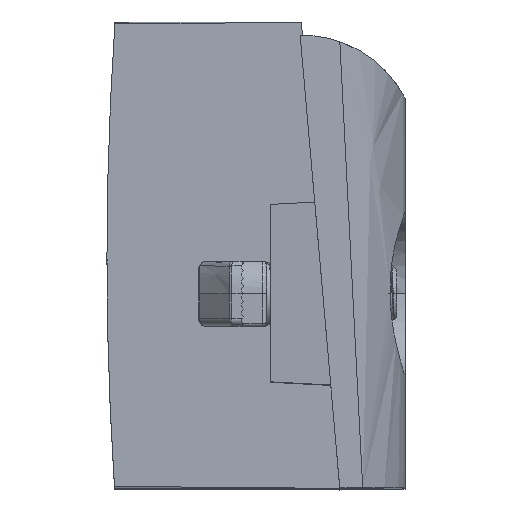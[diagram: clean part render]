
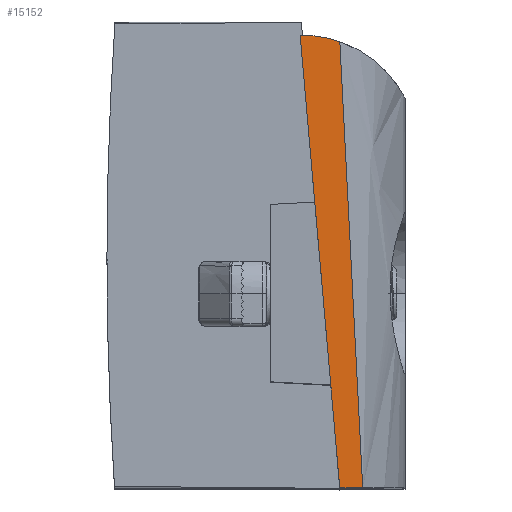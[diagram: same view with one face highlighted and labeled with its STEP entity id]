
A CAD part, top view. The second image highlights one B-rep face of the part: STEP entity #15152.
In plain terms, the highlighted planar face has unit normal (0.017, 0.002, 1) as drawn and (1, 0.002, -0.017) by its records, which use the part's own axes.
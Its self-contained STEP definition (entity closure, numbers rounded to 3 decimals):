
#452 = VERTEX_POINT ( 'NONE', #6340 ) ;
#619 =( BOUNDED_CURVE ( )  B_SPLINE_CURVE ( 3, ( #9451, #12213, #1966, #3161 ),
 .UNSPECIFIED., .F., .F. ) 
 B_SPLINE_CURVE_WITH_KNOTS ( ( 4, 4 ),
 ( 1.154, 1.484 ),
 .UNSPECIFIED. ) 
 CURVE ( )  GEOMETRIC_REPRESENTATION_ITEM ( )  RATIONAL_B_SPLINE_CURVE ( ( 1., 0.991, 0.991, 1. ) ) 
 REPRESENTATION_ITEM ( '' )  );
#893 = LINE ( 'NONE', #7488, #13814 ) ;
#1140 = DIRECTION ( 'NONE',  ( 0., -0.996, -0.087 ) ) ;
#1881 = EDGE_CURVE ( 'NONE', #452, #10415, #11012, .T. ) ;
#1966 = CARTESIAN_POINT ( 'NONE',  ( 77.466, 58.9, -26.805 ) ) ;
#2040 = CARTESIAN_POINT ( 'NONE',  ( 77.529, -0.015, -28.322 ) ) ;
#2288 = CARTESIAN_POINT ( 'NONE',  ( 77.435, 21.017, -31.9 ) ) ;
#2757 = CARTESIAN_POINT ( 'NONE',  ( 77.5, 13.4, -28.827 ) ) ;
#2825 = VECTOR ( 'NONE', #8724, 1000. ) ;
#3161 = CARTESIAN_POINT ( 'NONE',  ( 77.495, 58.9, -25.147 ) ) ;
#3366 = DIRECTION ( 'NONE',  ( 0., -0.996, -0.087 ) ) ;
#3957 = EDGE_CURVE ( 'NONE', #12136, #11039, #11647, .T. ) ;
#4377 = CARTESIAN_POINT ( 'NONE',  ( 77.253, 58.413, -39.094 ) ) ;
#5087 = FACE_OUTER_BOUND ( 'NONE', #13823, .T. ) ;
#5931 = CARTESIAN_POINT ( 'NONE',  ( 77.5, 13.4, -28.827 ) ) ;
#5944 = EDGE_CURVE ( 'NONE', #12943, #13733, #12911, .T. ) ;
#6340 = CARTESIAN_POINT ( 'NONE',  ( 77.495, 58.9, -25.147 ) ) ;
#6417 = VECTOR ( 'NONE', #1140, 1000. ) ;
#7488 = CARTESIAN_POINT ( 'NONE',  ( 77.5, 58.9, -24.846 ) ) ;
#8090 = ORIENTED_EDGE ( 'NONE', *, *, #8510, .T. ) ;
#8510 = EDGE_CURVE ( 'NONE', #11039, #452, #619, .T. ) ;
#8724 = DIRECTION ( 'NONE',  ( -0.017, 0.009, -1. ) ) ;
#8868 = DIRECTION ( 'NONE',  ( 0., -0.996, -0.087 ) ) ;
#9451 = CARTESIAN_POINT ( 'NONE',  ( 77.411, 58.091, -30.008 ) ) ;
#9557 = ORIENTED_EDGE ( 'NONE', *, *, #11353, .T. ) ;
#9614 = ORIENTED_EDGE ( 'NONE', *, *, #3957, .T. ) ;
#9917 = CARTESIAN_POINT ( 'NONE',  ( 77.448, 0.026, -32.984 ) ) ;
#10415 = VERTEX_POINT ( 'NONE', #15056 ) ;
#10788 = EDGE_CURVE ( 'NONE', #13733, #12136, #12433, .T. ) ;
#11012 = LINE ( 'NONE', #4377, #14950 ) ;
#11039 = VERTEX_POINT ( 'NONE', #15320 ) ;
#11353 = EDGE_CURVE ( 'NONE', #10415, #12943, #893, .T. ) ;
#11647 = B_SPLINE_CURVE_WITH_KNOTS ( 'NONE', 3,
 ( #9917, #2288, #12681, #15297 ),
 .UNSPECIFIED., .F., .F.,
 ( 4, 4 ),
 ( 0., 1. ),
 .UNSPECIFIED. ) ;
#11813 = PLANE ( 'NONE',  #16248 ) ;
#12136 = VERTEX_POINT ( 'NONE', #14265 ) ;
#12180 = ORIENTED_EDGE ( 'NONE', *, *, #5944, .T. ) ;
#12213 = CARTESIAN_POINT ( 'NONE',  ( 77.438, 58.628, -28.44 ) ) ;
#12433 = LINE ( 'NONE', #2040, #2825 ) ;
#12463 = ORIENTED_EDGE ( 'NONE', *, *, #10788, .T. ) ;
#12681 = CARTESIAN_POINT ( 'NONE',  ( 77.423, 40.372, -30.908 ) ) ;
#12911 = LINE ( 'NONE', #2757, #6417 ) ;
#12918 = DIRECTION ( 'NONE',  ( 1., 0.002, -0.017 ) ) ;
#12943 = VERTEX_POINT ( 'NONE', #5931 ) ;
#13733 = VERTEX_POINT ( 'NONE', #16305 ) ;
#13814 = VECTOR ( 'NONE', #3366, 1000. ) ;
#13823 = EDGE_LOOP ( 'NONE', ( #9557, #12180, #12463, #9614, #8090, #15312 ) ) ;
#14235 = CARTESIAN_POINT ( 'NONE',  ( 77.5, 58.9, -24.846 ) ) ;
#14265 = CARTESIAN_POINT ( 'NONE',  ( 77.448, 0.026, -32.984 ) ) ;
#14917 = DIRECTION ( 'NONE',  ( 0.017, 0.035, 0.999 ) ) ;
#14950 = VECTOR ( 'NONE', #14917, 1000. ) ;
#15056 = CARTESIAN_POINT ( 'NONE',  ( 77.5, 58.911, -24.845 ) ) ;
#15152 = ADVANCED_FACE ( 'NONE', ( #5087 ), #11813, .T. ) ;
#15297 = CARTESIAN_POINT ( 'NONE',  ( 77.411, 58.091, -30.008 ) ) ;
#15312 = ORIENTED_EDGE ( 'NONE', *, *, #1881, .T. ) ;
#15320 = CARTESIAN_POINT ( 'NONE',  ( 77.411, 58.091, -30.008 ) ) ;
#16248 = AXIS2_PLACEMENT_3D ( 'NONE', #14235, #12918, #8868 ) ;
#16305 = CARTESIAN_POINT ( 'NONE',  ( 77.5, 0., -29.999 ) ) ;
